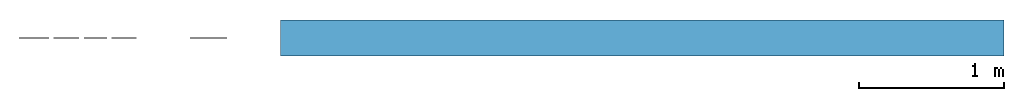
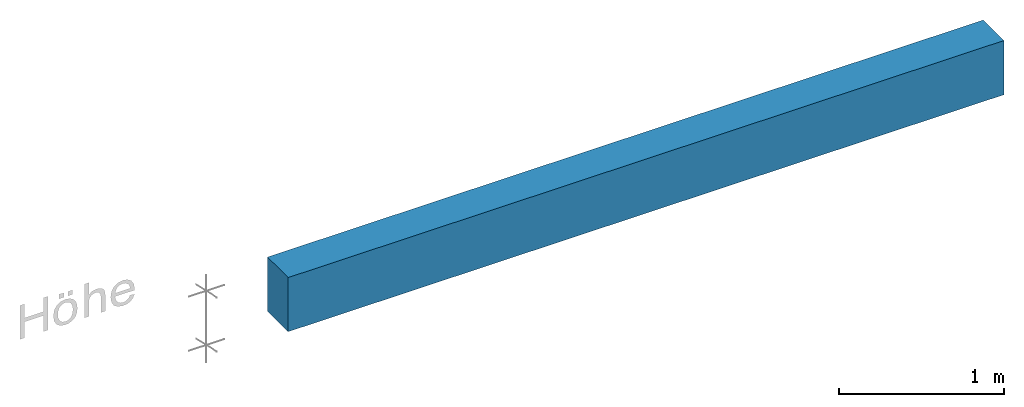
# One storey, part 1 of 2: 1 beam.
"""IFC4 building model written with IfcOpenShell, lengths in metres."""

from ifc_helpers import new_model, entity, si_unit, converted_unit, derived_unit, frame, frame_2d, origin, place, context, subcontext, project, spatial, rectangle, extrude, material, element, save


model = new_model("IFC4")

# Units and contexts
model_context = context("Model", 3, precision=1e-05, world=origin())
body_context = subcontext(model_context, "Body", "Model", "MODEL_VIEW")
ifc_project = project(units=[si_unit("LENGTHUNIT", "METRE"), si_unit("AREAUNIT", "SQUARE_METRE"), si_unit("VOLUMEUNIT", "CUBIC_METRE"), si_unit("MASSUNIT", "GRAM", prefix="KILO"), converted_unit("PLANEANGLEUNIT", "DEGREE", entity("IfcPlaneAngleMeasure", 0.0174532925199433), si_unit("PLANEANGLEUNIT", "RADIAN"), dimensions=[0, 0, 0, 0, 0, 0, 0]), derived_unit("THERMALTRANSMITTANCEUNIT", [(si_unit("POWERUNIT", "WATT"), 1), (si_unit("THERMODYNAMICTEMPERATUREUNIT", "KELVIN"), -1), (si_unit("LENGTHUNIT", "METRE"), -2)]), derived_unit("VOLUMETRICFLOWRATEUNIT", [(si_unit("LENGTHUNIT", "METRE"), 3), (converted_unit("TIMEUNIT", "hour", entity("IfcTimeMeasure", 3600.0), si_unit("TIMEUNIT", "SECOND"), dimensions=[0, 0, 1, 0, 0, 0, 0]), -1), (si_unit("LENGTHUNIT", "METRE"), -1)])], contexts=[model_context])

# Site, building, storey
site_placement = place(None, origin())
site = spatial("IfcSite", under=ifc_project, at=site_placement, Name="Liegenschaft", CompositionType="ELEMENT")
building_placement = place(site_placement, origin())
building = spatial("IfcBuilding", under=site, at=building_placement, Name="Gebäude", CompositionType="ELEMENT")
storey_placement = place(building_placement, origin())
storey = spatial("IfcBuildingStorey", under=building, at=storey_placement, Name="Geschoss 02", CompositionType="ELEMENT", Elevation=0.0)

# Beam
ifc_material = material(Name="C25/30")
beam_placement = place(storey_placement, frame((95.2953071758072, -0.00408619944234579, 0.0), z_axis=(0.0, 0.0, 1.0), x_axis=(-1.0, 0.0, 0.0)))
element("IfcBeam", 1, at=beam_placement, inside=storey, material=ifc_material, Name="WA_01", PredefinedType="NOTDEFINED", context=body_context, shape_type="SweptSolid", body=[
    extrude(rectangle(XDim=0.25, YDim=0.4, at=frame_2d((0.125, 0.2), x_axis=(1.0, 0.0))), frame((0.0, 0.0, 0.0), z_axis=(1.0, 0.0, 0.0), x_axis=(0.0, 1.0, 0.0)), (0.0, 0.0, 1.0), 5.0),
])

save(model, "model.ifc")
